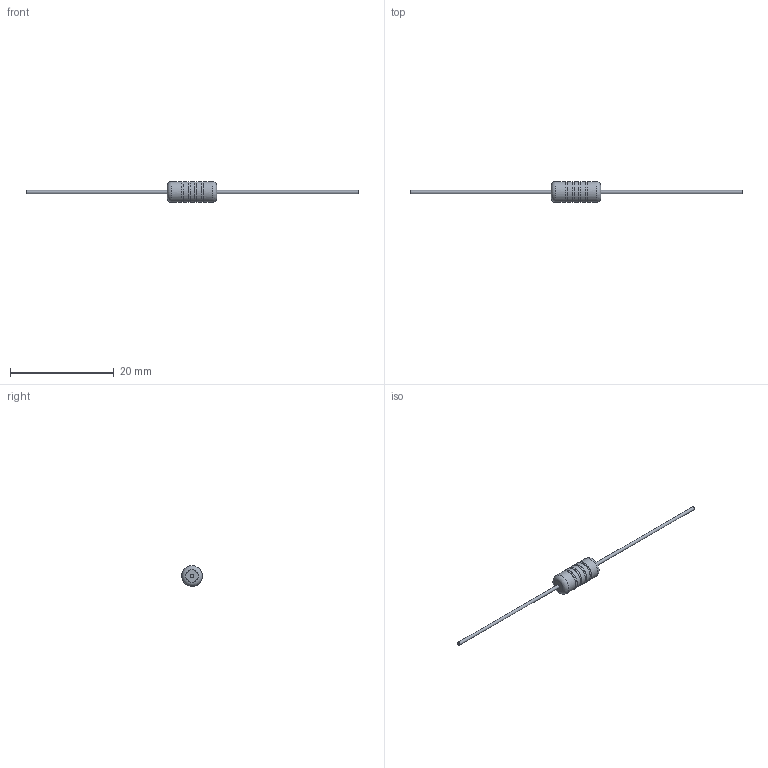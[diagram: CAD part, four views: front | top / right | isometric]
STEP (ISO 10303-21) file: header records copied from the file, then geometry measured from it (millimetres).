
FILE_DESCRIPTION(/* description */ (''),/* implementation_level */ '2;1');
FILE_NAME(/* name */ '\\Snap1\dwgs\Customer 3D Models\550\550-8640.stp',/* time_stamp */ '2016-12-22T16:01:47+00:00',/* author */ ('P. Karlsons'),/* organization */ (''),/* preprocessor_version */ 'ST-DEVELOPER v15.2',/* originating_system */ 'Autodesk Inventor 2014',/* authorisation */ '');
FILE_SCHEMA (('CONFIG_CONTROL_DESIGN'));
Length unit declared in the file: millimetre
Products named in the file (1): 550-8640
Bounding box: 64.03 x 3.99 x 3.99 mm (x, y, z)
Volume: 131.8 mm3; surface area: 239.7 mm2
Topology: 1 solids, 1 shells, 29 faces, 73 edges, 48 vertices
Faces by surface type: plane 12, bspline 8, cylinder 7, torus 2
Full cylindrical faces by diameter (mm): 0.61 x2, 3.988 x1
Entity records: 5974 total; most frequent: CARTESIAN_POINT 5373, ORIENTED_EDGE 112, DIRECTION 84, EDGE_CURVE 56, EDGE_LOOP 40, VERTEX_POINT 40, AXIS2_PLACEMENT_3D 30, ADVANCED_FACE 29
